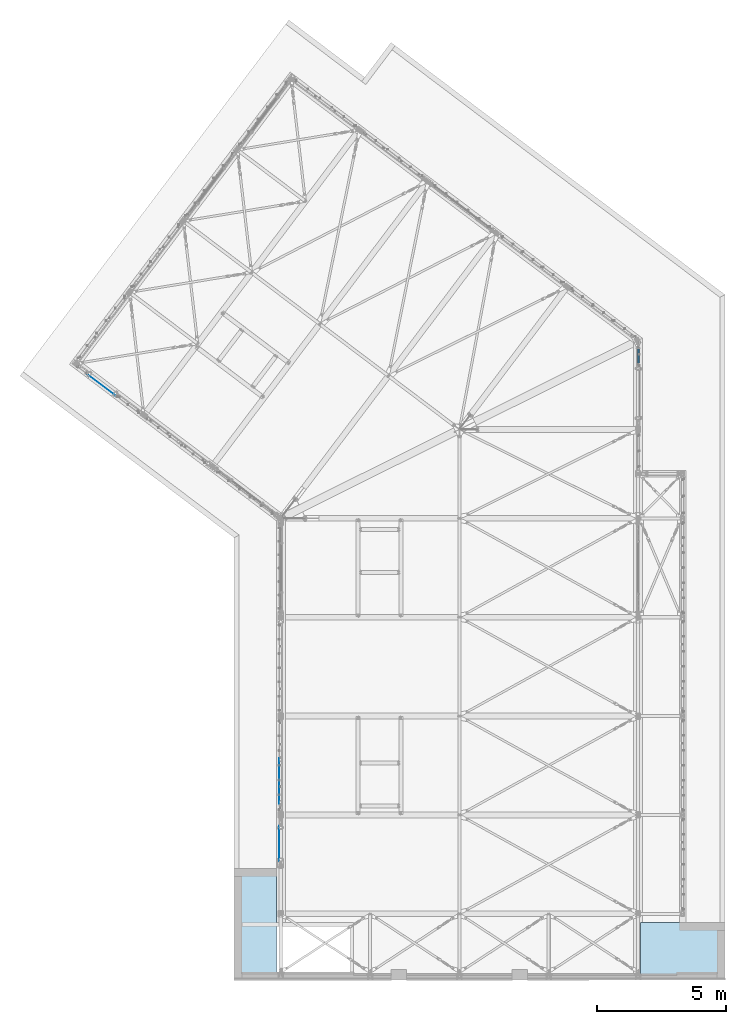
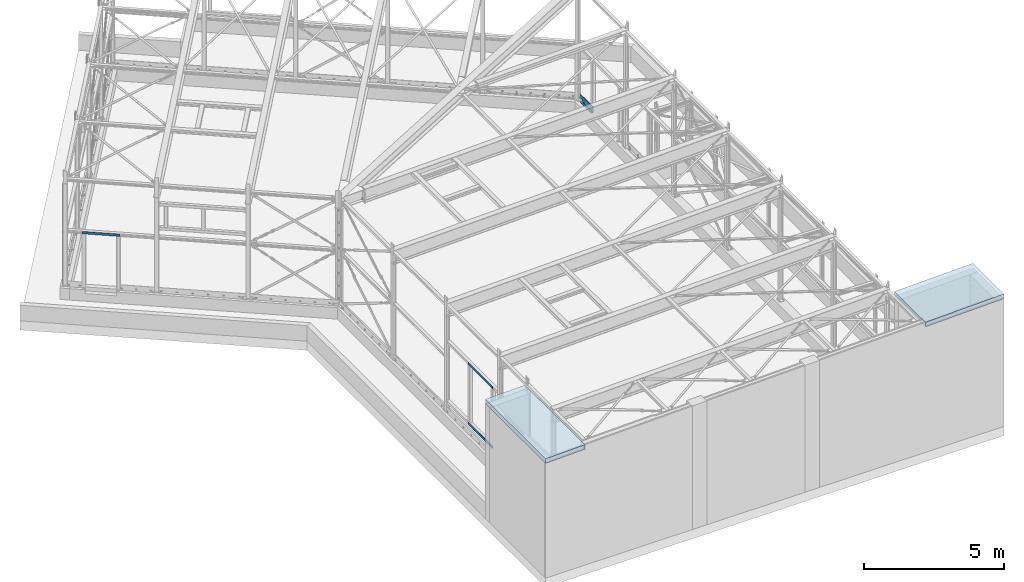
# One storey, part 28 of 476: 4 plates, 2 slabs, 1 beam, 10 openings.
"""IFC2X3 building model written with IfcOpenShell, lengths in millimetres."""

from ifc_helpers import new_model, entity, si_unit, converted_unit, frame, frame_2d, origin, origin_with_axes, origin_2d_with_axis, place, context, project, spatial, polyline, circle, l_section, outline, extrude, material, layer, layer_set, element, save


model = new_model("IFC2X3")

# Units and contexts
model_context = context("Model", 3, precision=1e-09, world=origin_with_axes())
ifc_project = project(units=[si_unit("LENGTHUNIT", "METRE", prefix="MILLI"), si_unit("AREAUNIT", "SQUARE_METRE"), si_unit("VOLUMEUNIT", "CUBIC_METRE"), converted_unit("PLANEANGLEUNIT", "DEGREE", entity("IfcPlaneAngleMeasure", 0.01745329), si_unit("PLANEANGLEUNIT", "RADIAN"), dimensions=[0, 0, 0, 0, 0, 0, 0])], contexts=[model_context])

# Site, building, storey
site_placement = place(None, origin_with_axes())
site = spatial("IfcSite", under=ifc_project, at=site_placement, Name="mKR Teilneubau & Sanierung BA1 - Ostfildern", CompositionType="ELEMENT")
building_placement = place(site_placement, origin_with_axes())
building = spatial("IfcBuilding", under=site, at=building_placement, Name="Struktur 1", CompositionType="ELEMENT")
storey_placement = place(building_placement, origin_with_axes())
storey = spatial("IfcBuildingStorey", under=building, at=storey_placement, Name="Default Storey", CompositionType="ELEMENT", Elevation=0.0)

# Beam, openings
ifc_material_1 = material(Name="S235JR")
beam_placement = place(None, frame((22016.508764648, -89.102759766, 594.5), z_axis=(0.0, 1.0, 0.0), x_axis=(-1.0, 0.0, 0.0)))
beam = element("IfcBeam", 1, at=beam_placement, inside=storey, material=ifc_material_1, Name="-", ObjectType="-", context=model_context, shape_type="SweptSolid", body=[
    extrude(l_section(Depth=250.0, Width=90.0, Thickness=10.0, FilletRadius=15.0, EdgeRadius=7.5, at=frame_2d((30.5, 29.4))), origin(), (0.0, 0.0, 1.0), 955.853042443),
])
opening_1_placement = place(beam_placement, frame((-115.7, -144.501, 835.852042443), z_axis=(-1.0, 0.0, 0.0), x_axis=(0.0, 0.0, 1.0)))
element("IfcOpeningElement", 2, at=opening_1_placement, cuts=beam, ObjectType="Opening", context=model_context, shape_type="SweptSolid", body=[
    extrude(outline(polyline([(0.0, 0.0), (135.866969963, 0.0), (135.866969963, 130.002), (0.0, 130.002), (0.0, 0.0)])), origin(), (0.0, 0.0, -1.0), 290.2),
])
opening_2_placement = place(beam_placement, frame((34.4, -95.0, 417.926021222), z_axis=(0.0, 1.0, 0.0), x_axis=(0.0, 0.0, 1.0)))
element("IfcOpeningElement", 3, at=opening_2_placement, cuts=beam, ObjectType="Opening", context=model_context, shape_type="SweptSolid", body=[
    extrude(circle(Radius=6.001, at=frame_2d((330.0, 0.0), x_axis=(1.0, 0.0))), origin(), (0.0, 0.0, 1.0), 11.0),
])
opening_3_placement = place(beam_placement, frame((34.4, -95.0, 417.926021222), z_axis=(0.0, 1.0, 0.0), x_axis=(0.0, 0.0, 1.0)))
element("IfcOpeningElement", 4, at=opening_3_placement, cuts=beam, ObjectType="Opening", context=model_context, shape_type="SweptSolid", body=[
    extrude(circle(Radius=6.001, at=frame_2d((-330.0, 0.0), x_axis=(1.0, 0.0))), origin(), (0.0, 0.0, 1.0), 11.0),
])
opening_4_placement = place(beam_placement, frame((-5.1, 13.5, 477.926521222), z_axis=(-1.0, 0.0, 0.0), x_axis=(0.0, 0.0, 1.0)))
element("IfcOpeningElement", 5, at=opening_4_placement, cuts=beam, ObjectType="Opening", context=model_context, shape_type="SweptSolid", body=[
    extrude(circle(Radius=7.001, at=origin_2d_with_axis()), origin(), (0.0, 0.0, 1.0), 11.0),
])
opening_5_placement = place(beam_placement, frame((-5.1, 13.5, 477.926521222), z_axis=(-1.0, 0.0, 0.0), x_axis=(0.0, 0.0, 1.0)))
element("IfcOpeningElement", 6, at=opening_5_placement, cuts=beam, ObjectType="Opening", context=model_context, shape_type="SweptSolid", body=[
    extrude(circle(Radius=7.001, at=frame_2d((440.0, 0.0), x_axis=(1.0, 0.0))), origin(), (0.0, 0.0, 1.0), 11.0),
])
opening_6_placement = place(beam_placement, frame((-5.1, 13.5, 477.926521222), z_axis=(-1.0, 0.0, 0.0), x_axis=(0.0, 0.0, 1.0)))
element("IfcOpeningElement", 7, at=opening_6_placement, cuts=beam, ObjectType="Opening", context=model_context, shape_type="SweptSolid", body=[
    extrude(circle(Radius=7.001, at=frame_2d((-440.0, 0.0), x_axis=(1.0, 0.0))), origin(), (0.0, 0.0, 1.0), 11.0),
])

# Plates
ifc_layer_1 = layer(ifc_material_1, 6.0)
ifc_layer_set_1 = layer_set([ifc_layer_1], Name="S235JR")
for number, where, z_axis, x_axis in (
    (8, (8105.608780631, -16095.316467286, 982.999991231), (-1.0, 0.0, 0.0), (0.0, -1.0, 0.0)),
    (9, (8105.608780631, -16095.316467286, 3596.999991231), (-1.0, 0.0, 0.0), (0.0, -1.0, 0.0)),
):
    element("IfcPlate", number, at=place(None, frame(where, z_axis=z_axis, x_axis=x_axis)), inside=storey, material=ifc_layer_set_1, Name="-", ObjectType="-", context=model_context, shape_type="SweptSolid", body=[
        extrude(outline(polyline([(-885.0, -53.000008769), (885.0, -53.000008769), (885.0, 53.000008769), (-885.0, 53.000008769), (-885.0, -53.000008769)])), origin_with_axes(), (0.0, 0.0, 1.0), 6.0),
    ])
plate_1_placement = place(None, frame((8105.608780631, -18515.673034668, 2912.000008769), z_axis=(-1.0, 0.0, 0.0), x_axis=(0.0, -1.0, 0.0)))
element("IfcPlate", 10, at=plate_1_placement, inside=storey, material=ifc_layer_set_1, Name="-", ObjectType="-", context=model_context, shape_type="SweptSolid", body=[
    extrude(outline(polyline([(-685.001, -53.000008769), (685.001, -53.000008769), (685.001, 53.000008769), (-685.001, 53.000008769), (-685.001, -53.000008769)])), origin_with_axes(), (0.0, 0.0, 1.0), 6.0),
])
plate_2_placement = place(None, frame((1242.305569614, -794.270735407, 2912.000000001), z_axis=(-0.602734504, -0.797941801, 0.0), x_axis=(0.797941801, -0.602734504, 0.0)))
element("IfcPlate", 11, at=plate_2_placement, inside=storey, material=ifc_layer_set_1, Name="-", ObjectType="-", context=model_context, shape_type="SweptSolid", body=[
    extrude(outline(polyline([(-685.001086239, -53.000000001), (685.001086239, -53.000000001), (685.001086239, 53.000000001), (-685.001086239, 53.000000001), (-685.001086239, -53.000000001)])), origin_with_axes(), (0.0, 0.0, 1.0), 6.0),
])

# Slab, openings
ifc_material_2 = material(Name="C25/30")
ifc_layer_2 = layer(ifc_material_2, 200.0)
ifc_layer_set_2 = layer_set([ifc_layer_2], Name="C25/30")
slab_1_placement = place(None, frame((7237.609476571, -21627.816467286, 5046.268264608), z_axis=(-0.0300418, 0.0, 0.999548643), x_axis=(0.999548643, 0.0, 0.0300418)))
slab_1 = element("IfcSlab", 12, at=slab_1_placement, inside=storey, material=ifc_layer_set_2, Name="-", ObjectType="-", context=model_context, shape_type="SweptSolid", body=[
    extrude(outline(polyline([(-999.127351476, -2152.5), (999.127351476, -2152.5), (999.127351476, 2152.5), (-999.127351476, 2152.5), (-999.127351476, -2152.5)])), origin_with_axes(), (0.0, 0.0, 1.0), 200.0),
])
opening_7_placement = place(slab_1_placement, frame((0.0, 2152.6, 100.0), z_axis=(0.0, -1.0, 0.0), x_axis=(0.999548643, 0.0, -0.0300418)))
element("IfcOpeningElement", 13, at=opening_7_placement, cuts=slab_1, ObjectType="Opening", context=model_context, shape_type="SweptSolid", body=[
    extrude(outline(polyline([(-1506.631367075, -574.347745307), (-873.99553274, -574.347745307), (-873.99553274, 406.718885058), (-1506.631367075, 406.718885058), (-1506.631367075, -574.347745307)])), origin(), (0.0, 0.0, 1.0), 4305.2),
])
opening_8_placement = place(slab_1_placement, frame((0.0, 2152.6, 100.0), z_axis=(0.0, -1.0, 0.0), x_axis=(0.999548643, 0.0, -0.0300418)))
element("IfcOpeningElement", 14, at=opening_8_placement, cuts=slab_1, ObjectType="Opening", context=model_context, shape_type="SweptSolid", body=[
    extrude(outline(polyline([(756.00246726, -790.532521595), (1495.860965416, -790.532521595), (1495.860965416, 622.936669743), (756.00246726, 622.936669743), (756.00246726, -790.532521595)])), origin(), (0.0, 0.0, 1.0), 4305.2),
])

slab_2_placement = place(None, frame((23657.281554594, -22670.494750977, 5539.767506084), z_axis=(-0.0300418, 0.0, 0.999548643), x_axis=(0.999548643, 0.0, 0.0300418)))
slab_2 = element("IfcSlab", 15, at=slab_2_placement, inside=storey, material=ifc_layer_set_2, Name="-", ObjectType="-", context=model_context, shape_type="SweptSolid", body=[
    extrude(outline(polyline([(-1804.502922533, -1109.821716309), (1804.502922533, -1109.821716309), (1804.502922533, 1109.821716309), (-1804.502922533, 1109.821716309), (-1804.502922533, -1109.821716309)])), origin_with_axes(), (0.0, 0.0, 1.0), 200.0),
])
opening_9_placement = place(slab_2_placement, frame((0.0, 1109.921716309, 100.0), z_axis=(0.0, -1.0, 0.0), x_axis=(0.999548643, 0.0, -0.0300418)))
element("IfcOpeningElement", 16, at=opening_9_placement, cuts=slab_2, ObjectType="Opening", context=model_context, shape_type="SweptSolid", body=[
    extrude(outline(polyline([(-2561.342819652, -1415.433979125), (-1583.667671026, -1415.433979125), (-1583.667671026, 873.274920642), (-2561.342819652, 873.274920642), (-2561.342819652, -1415.433979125)])), origin(), (0.0, 0.0, 1.0), 2219.843432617),
])
opening_10_placement = place(slab_2_placement, frame((0.0, 1109.921716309, 100.0), z_axis=(0.0, -1.0, 0.0), x_axis=(0.999548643, 0.0, -0.0300418)))
element("IfcOpeningElement", 17, at=opening_10_placement, cuts=slab_2, ObjectType="Opening", context=model_context, shape_type="SweptSolid", body=[
    extrude(outline(polyline([(1671.330328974, -1549.081047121), (3062.732290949, -1549.081047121), (3062.732290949, 1274.216265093), (1671.330328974, 1274.216265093), (1671.330328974, -1549.081047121)])), origin(), (0.0, 0.0, 1.0), 2219.843432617),
])

save(model, "model.ifc")
